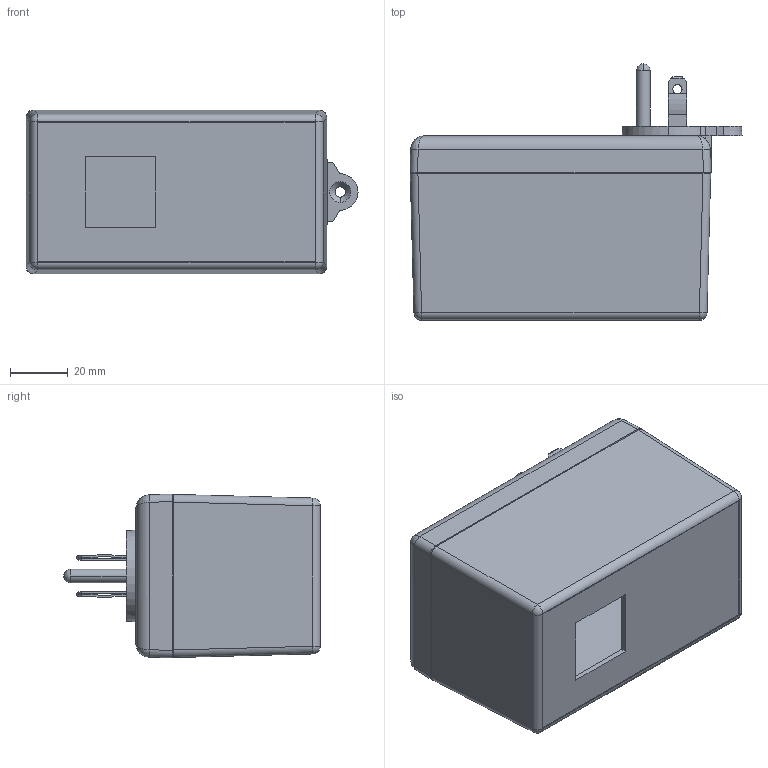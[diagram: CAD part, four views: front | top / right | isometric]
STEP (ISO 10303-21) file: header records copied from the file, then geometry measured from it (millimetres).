
FILE_DESCRIPTION (( 'STEP AP214' ), '1' );
FILE_NAME ('PM2425R13XWT.STEP', '2010-07-15T14:17:41', ( '' ), ( '' ), 'SwSTEP 2.0', 'SolidWorks 2010', '' );
FILE_SCHEMA (( 'AUTOMOTIVE_DESIGN' ));
Length unit declared in the file: inch
Products named in the file (10): TS-2420B AND PM2420_PM2420R1; B2405 ASS''Y_B24053XWT; MPB2405_MPB24053WT; GND-PIN; BLADES; WELD DISC-PS-BK; GND-TAB; SCREWS-HL1-BR; B2405-PCB; PM2425R13XWT
Assembly tree (13 placements, depth 3):
  PM2425R13XWT
    TS-2420B AND PM2420_PM2420R1
    SCREWS-HL1-BR  x4
    B2405 ASS''Y_B24053XWT
      MPB2405_MPB24053WT
      GND-PIN
      BLADES  x2
      WELD DISC-PS-BK
      GND-TAB
    B2405-PCB
Bounding box: 115.34 x 89.03 x 56.95 mm (x, y, z)
Volume: 87396.2 mm3; surface area: 82374.1 mm2
Topology: 12 solids, 12 shells, 956 faces, 2655 edges, 1729 vertices
Faces by surface type: cylinder 520, plane 300, cone 82, bspline 28, sphere 14, torus 12
Entity records: 20738 total; most frequent: CARTESIAN_POINT 6566, ORIENTED_EDGE 3020, DIRECTION 2768, EDGE_CURVE 1510, AXIS2_PLACEMENT_3D 992, VERTEX_POINT 979, VECTOR 784, LINE 784
